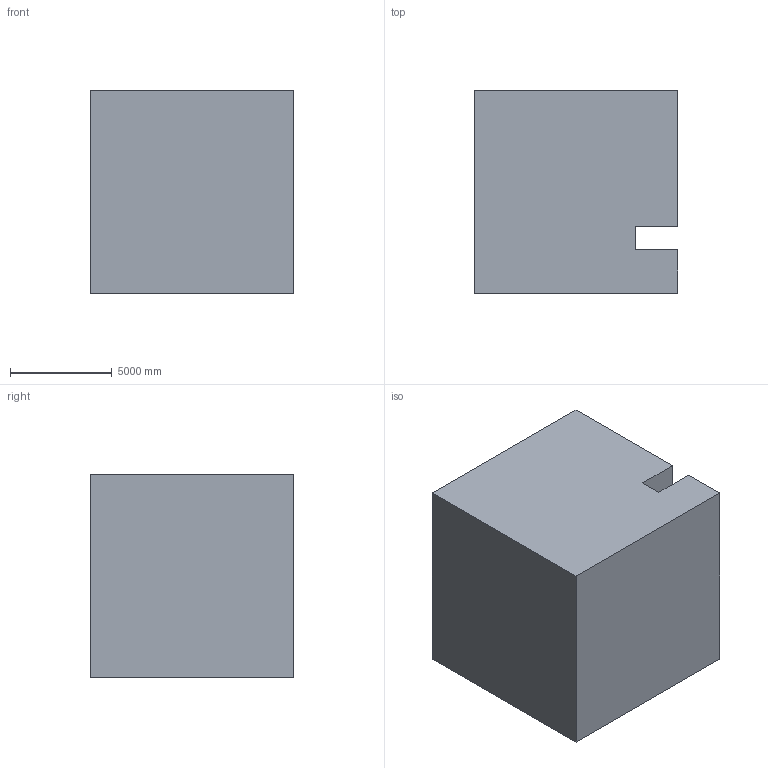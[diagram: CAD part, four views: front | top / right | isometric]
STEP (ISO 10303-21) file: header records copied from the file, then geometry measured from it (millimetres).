
FILE_DESCRIPTION (( 'STEP AP203' ), '1' );
FILE_NAME ('1115.STEP', '2022-08-18T12:49:13', ( 'user' ), ( '' ), 'SwSTEP 2.0', 'SolidWorks 2021', '' );
FILE_SCHEMA (( 'CONFIG_CONTROL_DESIGN' ));
Length unit declared in the file: centimetre
Products named in the file (1): 1115
Bounding box: 10000 x 10000 x 10000 mm (x, y, z)
Volume: 968995905134.7 mm3; surface area: 638683888.1 mm2
Topology: 1 solids, 1 shells, 14 faces, 36 edges, 24 vertices
Faces by surface type: plane 12, cylinder 2
Entity records: 501 total; most frequent: CARTESIAN_POINT 75, ORIENTED_EDGE 72, DIRECTION 70, EDGE_CURVE 36, VECTOR 32, LINE 32, VERTEX_POINT 24, AXIS2_PLACEMENT_3D 19
